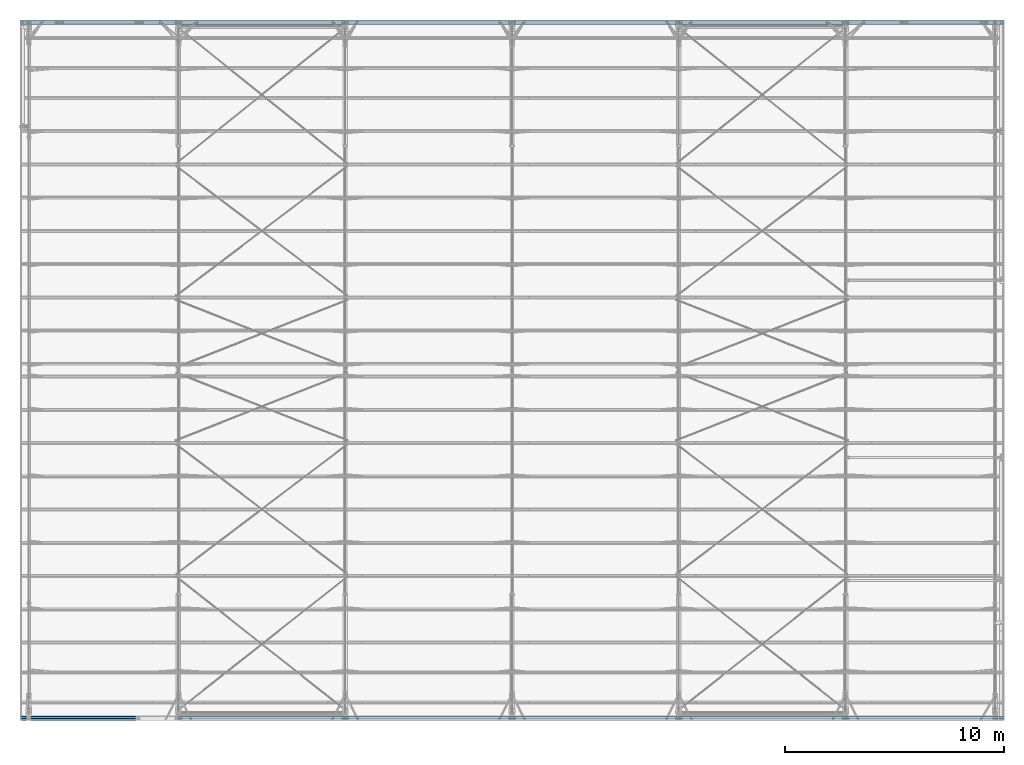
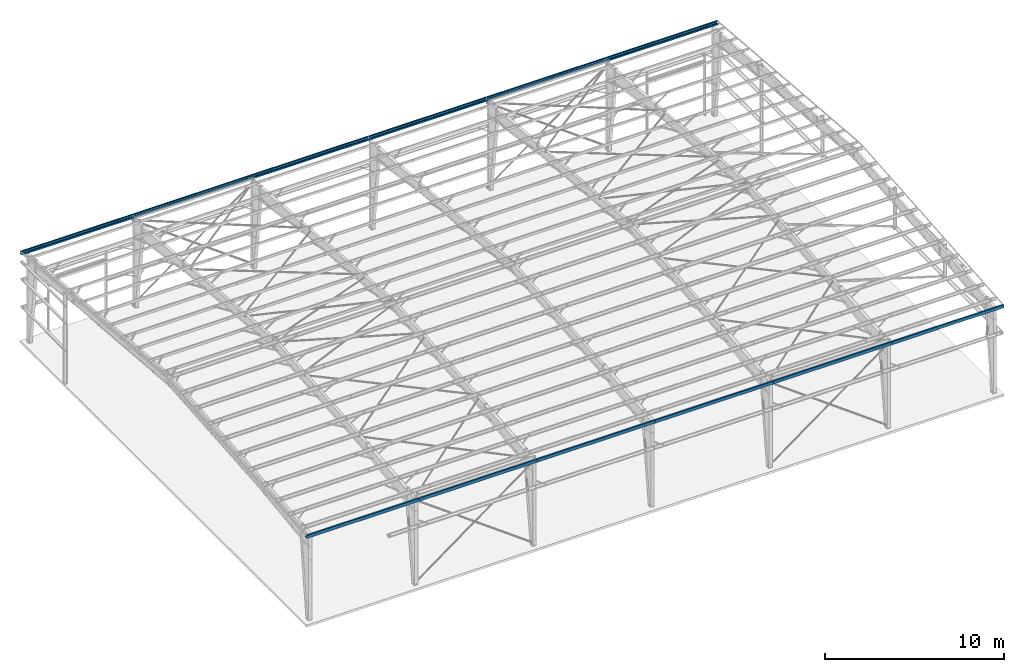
# One storey, part 181 of 185: 12 beams, 12 elements without a shape of their own.
"""IFC2X3 building model written with IfcOpenShell, lengths in millimetres."""

from ifc_helpers import new_model, si_unit, frame, origin_with_axes, place, context, subcontext, project, spatial, faceted_brep, material, type_object, element, aggregate, save


model = new_model("IFC2X3")

# Units and contexts
model_context = context("Model", 3, precision=1e-05, world=origin_with_axes())
body_context = subcontext(model_context, "Body", "Model", "MODEL_VIEW")
ifc_project = project(units=[si_unit("LENGTHUNIT", "METRE", prefix="MILLI"), si_unit("AREAUNIT", "SQUARE_METRE"), si_unit("VOLUMEUNIT", "CUBIC_METRE"), si_unit("MASSUNIT", "GRAM", prefix="KILO"), si_unit("TIMEUNIT", "SECOND"), si_unit("PLANEANGLEUNIT", "RADIAN"), si_unit("SOLIDANGLEUNIT", "STERADIAN"), si_unit("THERMODYNAMICTEMPERATUREUNIT", "DEGREE_CELSIUS"), si_unit("LUMINOUSINTENSITYUNIT", "LUMEN")], contexts=[model_context])

# Site, building, storey
site_placement = place(None, origin_with_axes())
site = spatial("IfcSite", under=ifc_project, at=site_placement, Name="Undefined", CompositionType="ELEMENT")
building_placement = place(site_placement, origin_with_axes())
building = spatial("IfcBuilding", under=site, at=building_placement, Name="Undefined", CompositionType="ELEMENT")
storey_placement = place(building_placement, origin_with_axes())
storey = spatial("IfcBuildingStorey", under=building, at=storey_placement, Name="Undefined", CompositionType="ELEMENT", Elevation=0.0)

# Assembly, beam
assembly_1_placement = place(storey_placement, origin_with_axes())
assembly_1 = element("IfcElementAssembly", 1, at=assembly_1_placement, inside=storey, Name="Steel Assembly", AssemblyPlace="NOTDEFINED", PredefinedType="RIGID_FRAME")
ifc_material = material(Name="STEEL/55")
beam_type = type_object("IfcBeamType", Name="ESEIGHT1\"", PredefinedType="NOTDEFINED")
beam_1_placement = place(assembly_1_placement, frame((7238.99999999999, 31901.9256137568, 5998.11499141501), z_axis=(0.0, 0.0, 1.0), x_axis=(-1.0, 0.0, 0.0)))
beam_1 = element("IfcBeam", 2, at=beam_1_placement, type_object=beam_type, material=ifc_material, Name="Eave Strut", ObjectType="ESEIGHT1\"", context=body_context, shape_type="Brep", body=[
    faceted_brep([(12.6999999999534, 75.0482668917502, -3.64394826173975), (12.6999999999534, 75.1801017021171, -5.22596464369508), (7226.29999999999, 75.1801017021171, -5.22596464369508), (7226.29999999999, 75.0482668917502, -3.64394826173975), (12.6999999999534, 93.3732901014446, -3.70986432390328), (7226.29999999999, 93.3732901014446, -3.70986432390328), (12.6999999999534, 100.360535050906, -87.5567325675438), (7226.29999999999, 100.360535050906, -87.5567325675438), (12.6999999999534, -100.48688624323, -104.294031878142), (7226.29999999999, -100.48688624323, -104.294031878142), (12.6999999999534, -100.48688624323, 97.3129654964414), (7226.29999999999, -100.48688624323, 97.3129654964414), (12.6999999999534, -16.576842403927, 104.305475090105), (7226.29999999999, -16.576842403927, 104.305475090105), (12.6999999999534, -15.0607420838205, 86.1122867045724), (7226.29999999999, -15.0607420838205, 86.1122867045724), (12.6999999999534, -13.4787257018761, 86.2441215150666), (7226.29999999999, -13.4787257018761, 86.2441215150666), (12.6999999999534, -15.1266608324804, 106.019326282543), (7226.29999999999, -15.1266608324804, 106.019326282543), (12.6999999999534, -102.074386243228, 98.7736763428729), (7226.29999999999, -102.074386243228, 98.7736763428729), (12.6999999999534, -102.074386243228, -106.019326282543), (7226.29999999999, -102.074386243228, -106.019326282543), (12.6999999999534, 102.074386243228, -89.0069141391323), (7226.29999999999, 102.074386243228, -89.0069141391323), (12.6999999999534, 94.8234716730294, -1.99601313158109), (7226.29999999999, 94.8234716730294, -1.99601313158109)], [[[0, 1, 2, 3]], [[1, 4, 5, 2]], [[4, 6, 7, 5]], [[6, 8, 9, 7]], [[8, 10, 11, 9]], [[10, 12, 13, 11]], [[12, 14, 15, 13]], [[14, 16, 17, 15]], [[16, 18, 19, 17]], [[18, 20, 21, 19]], [[20, 22, 23, 21]], [[22, 24, 25, 23]], [[24, 26, 27, 25]], [[26, 0, 3, 27]], [[5, 7, 9, 11, 13, 15, 17, 19, 21, 23, 25, 27, 3, 2]], [[26, 24, 22, 20, 18, 16, 14, 12, 10, 8, 6, 4, 1, 0]]]),
])
aggregate(assembly_1, [beam_1])

assembly_2_placement = place(storey_placement, origin_with_axes())
assembly_2 = element("IfcElementAssembly", 3, at=assembly_2_placement, inside=storey, Name="Steel Assembly", AssemblyPlace="NOTDEFINED", PredefinedType="RIGID_FRAME")
beam_2_placement = place(assembly_2_placement, frame((14859.0, 31901.9256137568, 5998.11499141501), z_axis=(0.0, 0.0, 1.0), x_axis=(-1.0, 0.0, 0.0)))
beam_2 = element("IfcBeam", 4, at=beam_2_placement, type_object=beam_type, material=ifc_material, Name="Eave Strut", ObjectType="ESEIGHT1\"", context=body_context, shape_type="Brep", body=[
    faceted_brep([(12.6999999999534, 75.0482668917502, -3.64394826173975), (12.6999999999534, 75.1801017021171, -5.22596464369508), (7607.29999999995, 75.1801017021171, -5.22596464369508), (7607.29999999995, 75.0482668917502, -3.64394826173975), (12.6999999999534, 93.3732901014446, -3.70986432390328), (7607.29999999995, 93.3732901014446, -3.70986432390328), (12.6999999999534, 100.360535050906, -87.5567325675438), (7607.29999999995, 100.360535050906, -87.5567325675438), (12.6999999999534, -100.48688624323, -104.294031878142), (7607.29999999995, -100.48688624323, -104.294031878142), (12.6999999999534, -100.48688624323, 97.3129654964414), (7607.29999999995, -100.48688624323, 97.3129654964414), (12.6999999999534, -16.576842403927, 104.305475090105), (7607.29999999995, -16.576842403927, 104.305475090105), (12.6999999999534, -15.0607420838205, 86.1122867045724), (7607.29999999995, -15.0607420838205, 86.1122867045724), (12.6999999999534, -13.4787257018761, 86.2441215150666), (7607.29999999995, -13.4787257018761, 86.2441215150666), (12.6999999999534, -15.1266608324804, 106.019326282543), (7607.29999999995, -15.1266608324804, 106.019326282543), (12.6999999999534, -102.074386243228, 98.7736763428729), (7607.29999999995, -102.074386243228, 98.7736763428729), (12.6999999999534, -102.074386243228, -106.019326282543), (7607.29999999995, -102.074386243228, -106.019326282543), (12.6999999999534, 102.074386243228, -89.0069141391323), (7607.29999999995, 102.074386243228, -89.0069141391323), (12.6999999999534, 94.8234716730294, -1.99601313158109), (7607.29999999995, 94.8234716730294, -1.99601313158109)], [[[0, 1, 2, 3]], [[1, 4, 5, 2]], [[4, 6, 7, 5]], [[6, 8, 9, 7]], [[8, 10, 11, 9]], [[10, 12, 13, 11]], [[12, 14, 15, 13]], [[14, 16, 17, 15]], [[16, 18, 19, 17]], [[18, 20, 21, 19]], [[20, 22, 23, 21]], [[22, 24, 25, 23]], [[24, 26, 27, 25]], [[26, 0, 3, 27]], [[5, 7, 9, 11, 13, 15, 17, 19, 21, 23, 25, 27, 3, 2]], [[26, 24, 22, 20, 18, 16, 14, 12, 10, 8, 6, 4, 1, 0]]]),
])
aggregate(assembly_2, [beam_2])

assembly_3_placement = place(storey_placement, origin_with_axes())
assembly_3 = element("IfcElementAssembly", 5, at=assembly_3_placement, inside=storey, Name="Steel Assembly", AssemblyPlace="NOTDEFINED", PredefinedType="RIGID_FRAME")
beam_3_placement = place(assembly_3_placement, frame((37719.0, 31901.9256137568, 5998.11499141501), z_axis=(0.0, 0.0, 1.0), x_axis=(-1.0, 0.0, 0.0)))
beam_3 = element("IfcBeam", 6, at=beam_3_placement, type_object=beam_type, material=ifc_material, Name="Eave Strut", ObjectType="ESEIGHT1\"", context=body_context, shape_type="Brep", body=[
    faceted_brep([(12.6999999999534, 75.0482668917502, -3.64394826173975), (12.6999999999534, 75.1801017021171, -5.22596464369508), (7607.29999999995, 75.1801017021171, -5.22596464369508), (7607.29999999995, 75.0482668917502, -3.64394826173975), (12.6999999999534, 93.3732901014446, -3.70986432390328), (7607.29999999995, 93.3732901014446, -3.70986432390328), (12.6999999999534, 100.360535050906, -87.5567325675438), (7607.29999999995, 100.360535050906, -87.5567325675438), (12.6999999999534, -100.48688624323, -104.294031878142), (7607.29999999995, -100.48688624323, -104.294031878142), (12.6999999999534, -100.48688624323, 97.3129654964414), (7607.29999999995, -100.48688624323, 97.3129654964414), (12.6999999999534, -16.576842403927, 104.305475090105), (7607.29999999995, -16.576842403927, 104.305475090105), (12.6999999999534, -15.0607420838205, 86.1122867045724), (7607.29999999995, -15.0607420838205, 86.1122867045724), (12.6999999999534, -13.4787257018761, 86.2441215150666), (7607.29999999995, -13.4787257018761, 86.2441215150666), (12.6999999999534, -15.1266608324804, 106.019326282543), (7607.29999999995, -15.1266608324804, 106.019326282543), (12.6999999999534, -102.074386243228, 98.7736763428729), (7607.29999999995, -102.074386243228, 98.7736763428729), (12.6999999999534, -102.074386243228, -106.019326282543), (7607.29999999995, -102.074386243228, -106.019326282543), (12.6999999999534, 102.074386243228, -89.0069141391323), (7607.29999999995, 102.074386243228, -89.0069141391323), (12.6999999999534, 94.8234716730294, -1.99601313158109), (7607.29999999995, 94.8234716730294, -1.99601313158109)], [[[0, 1, 2, 3]], [[1, 4, 5, 2]], [[4, 6, 7, 5]], [[6, 8, 9, 7]], [[8, 10, 11, 9]], [[10, 12, 13, 11]], [[12, 14, 15, 13]], [[14, 16, 17, 15]], [[16, 18, 19, 17]], [[18, 20, 21, 19]], [[20, 22, 23, 21]], [[22, 24, 25, 23]], [[24, 26, 27, 25]], [[26, 0, 3, 27]], [[5, 7, 9, 11, 13, 15, 17, 19, 21, 23, 25, 27, 3, 2]], [[26, 24, 22, 20, 18, 16, 14, 12, 10, 8, 6, 4, 1, 0]]]),
])
aggregate(assembly_3, [beam_3])

assembly_4_placement = place(storey_placement, origin_with_axes())
assembly_4 = element("IfcElementAssembly", 7, at=assembly_4_placement, inside=storey, Name="Steel Assembly", AssemblyPlace="NOTDEFINED", PredefinedType="RIGID_FRAME")
beam_4_placement = place(assembly_4_placement, frame((30099.0, 31901.9256137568, 5998.11499141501), z_axis=(0.0, 0.0, 1.0), x_axis=(-1.0, 0.0, 0.0)))
beam_4 = element("IfcBeam", 8, at=beam_4_placement, type_object=beam_type, material=ifc_material, Name="Eave Strut", ObjectType="ESEIGHT1\"", context=body_context, shape_type="Brep", body=[
    faceted_brep([(12.6999999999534, 75.0482668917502, -3.64394826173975), (12.6999999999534, 75.1801017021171, -5.22596464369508), (7607.29999999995, 75.1801017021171, -5.22596464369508), (7607.29999999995, 75.0482668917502, -3.64394826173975), (12.6999999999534, 93.3732901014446, -3.70986432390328), (7607.29999999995, 93.3732901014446, -3.70986432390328), (12.6999999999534, 100.360535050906, -87.5567325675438), (7607.29999999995, 100.360535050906, -87.5567325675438), (12.6999999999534, -100.48688624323, -104.294031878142), (7607.29999999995, -100.48688624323, -104.294031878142), (12.6999999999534, -100.48688624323, 97.3129654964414), (7607.29999999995, -100.48688624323, 97.3129654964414), (12.6999999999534, -16.576842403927, 104.305475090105), (7607.29999999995, -16.576842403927, 104.305475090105), (12.6999999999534, -15.0607420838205, 86.1122867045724), (7607.29999999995, -15.0607420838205, 86.1122867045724), (12.6999999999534, -13.4787257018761, 86.2441215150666), (7607.29999999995, -13.4787257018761, 86.2441215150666), (12.6999999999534, -15.1266608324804, 106.019326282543), (7607.29999999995, -15.1266608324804, 106.019326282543), (12.6999999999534, -102.074386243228, 98.7736763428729), (7607.29999999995, -102.074386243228, 98.7736763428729), (12.6999999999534, -102.074386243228, -106.019326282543), (7607.29999999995, -102.074386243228, -106.019326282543), (12.6999999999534, 102.074386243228, -89.0069141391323), (7607.29999999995, 102.074386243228, -89.0069141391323), (12.6999999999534, 94.8234716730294, -1.99601313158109), (7607.29999999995, 94.8234716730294, -1.99601313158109)], [[[0, 1, 2, 3]], [[1, 4, 5, 2]], [[4, 6, 7, 5]], [[6, 8, 9, 7]], [[8, 10, 11, 9]], [[10, 12, 13, 11]], [[12, 14, 15, 13]], [[14, 16, 17, 15]], [[16, 18, 19, 17]], [[18, 20, 21, 19]], [[20, 22, 23, 21]], [[22, 24, 25, 23]], [[24, 26, 27, 25]], [[26, 0, 3, 27]], [[5, 7, 9, 11, 13, 15, 17, 19, 21, 23, 25, 27, 3, 2]], [[26, 24, 22, 20, 18, 16, 14, 12, 10, 8, 6, 4, 1, 0]]]),
])
aggregate(assembly_4, [beam_4])

assembly_5_placement = place(storey_placement, origin_with_axes())
assembly_5 = element("IfcElementAssembly", 9, at=assembly_5_placement, inside=storey, Name="Steel Assembly", AssemblyPlace="NOTDEFINED", PredefinedType="RIGID_FRAME")
beam_5_placement = place(assembly_5_placement, frame((22479.0, 31901.9256137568, 5998.11499141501), z_axis=(0.0, 0.0, 1.0), x_axis=(-1.0, 0.0, 0.0)))
beam_5 = element("IfcBeam", 10, at=beam_5_placement, type_object=beam_type, material=ifc_material, Name="Eave Strut", ObjectType="ESEIGHT1\"", context=body_context, shape_type="Brep", body=[
    faceted_brep([(12.6999999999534, 75.0482668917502, -3.64394826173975), (12.6999999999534, 75.1801017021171, -5.22596464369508), (7607.29999999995, 75.1801017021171, -5.22596464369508), (7607.29999999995, 75.0482668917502, -3.64394826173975), (12.6999999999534, 93.3732901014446, -3.70986432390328), (7607.29999999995, 93.3732901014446, -3.70986432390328), (12.6999999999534, 100.360535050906, -87.5567325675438), (7607.29999999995, 100.360535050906, -87.5567325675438), (12.6999999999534, -100.48688624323, -104.294031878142), (7607.29999999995, -100.48688624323, -104.294031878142), (12.6999999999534, -100.48688624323, 97.3129654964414), (7607.29999999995, -100.48688624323, 97.3129654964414), (12.6999999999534, -16.576842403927, 104.305475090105), (7607.29999999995, -16.576842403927, 104.305475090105), (12.6999999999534, -15.0607420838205, 86.1122867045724), (7607.29999999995, -15.0607420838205, 86.1122867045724), (12.6999999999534, -13.4787257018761, 86.2441215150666), (7607.29999999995, -13.4787257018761, 86.2441215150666), (12.6999999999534, -15.1266608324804, 106.019326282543), (7607.29999999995, -15.1266608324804, 106.019326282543), (12.6999999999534, -102.074386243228, 98.7736763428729), (7607.29999999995, -102.074386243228, 98.7736763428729), (12.6999999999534, -102.074386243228, -106.019326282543), (7607.29999999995, -102.074386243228, -106.019326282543), (12.6999999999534, 102.074386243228, -89.0069141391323), (7607.29999999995, 102.074386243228, -89.0069141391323), (12.6999999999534, 94.8234716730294, -1.99601313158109), (7607.29999999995, 94.8234716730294, -1.99601313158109)], [[[0, 1, 2, 3]], [[1, 4, 5, 2]], [[4, 6, 7, 5]], [[6, 8, 9, 7]], [[8, 10, 11, 9]], [[10, 12, 13, 11]], [[12, 14, 15, 13]], [[14, 16, 17, 15]], [[16, 18, 19, 17]], [[18, 20, 21, 19]], [[20, 22, 23, 21]], [[22, 24, 25, 23]], [[24, 26, 27, 25]], [[26, 0, 3, 27]], [[5, 7, 9, 11, 13, 15, 17, 19, 21, 23, 25, 27, 3, 2]], [[26, 24, 22, 20, 18, 16, 14, 12, 10, 8, 6, 4, 1, 0]]]),
])
aggregate(assembly_5, [beam_5])

assembly_6_placement = place(storey_placement, origin_with_axes())
assembly_6 = element("IfcElementAssembly", 11, at=assembly_6_placement, inside=storey, Name="Steel Assembly", AssemblyPlace="NOTDEFINED", PredefinedType="RIGID_FRAME")
beam_6_placement = place(assembly_6_placement, frame((44958.0, 31901.9256137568, 5998.11499141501), z_axis=(0.0, 0.0, 1.0), x_axis=(-1.0, 0.0, 0.0)))
beam_6 = element("IfcBeam", 12, at=beam_6_placement, type_object=beam_type, material=ifc_material, Name="Eave Strut", ObjectType="ESEIGHT1\"", context=body_context, shape_type="Brep", body=[
    faceted_brep([(12.6999999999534, 75.0482668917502, -3.64394826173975), (12.6999999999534, 75.1801017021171, -5.22596464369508), (7226.29999999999, 75.1801017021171, -5.22596464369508), (7226.29999999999, 75.0482668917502, -3.64394826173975), (12.6999999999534, 93.3732901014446, -3.70986432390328), (7226.29999999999, 93.3732901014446, -3.70986432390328), (12.6999999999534, 100.360535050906, -87.5567325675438), (7226.29999999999, 100.360535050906, -87.5567325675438), (12.6999999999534, -100.48688624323, -104.294031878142), (7226.29999999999, -100.48688624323, -104.294031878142), (12.6999999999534, -100.48688624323, 97.3129654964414), (7226.29999999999, -100.48688624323, 97.3129654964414), (12.6999999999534, -16.576842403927, 104.305475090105), (7226.29999999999, -16.576842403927, 104.305475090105), (12.6999999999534, -15.0607420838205, 86.1122867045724), (7226.29999999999, -15.0607420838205, 86.1122867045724), (12.6999999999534, -13.4787257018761, 86.2441215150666), (7226.29999999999, -13.4787257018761, 86.2441215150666), (12.6999999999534, -15.1266608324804, 106.019326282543), (7226.29999999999, -15.1266608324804, 106.019326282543), (12.6999999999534, -102.074386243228, 98.7736763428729), (7226.29999999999, -102.074386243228, 98.7736763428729), (12.6999999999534, -102.074386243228, -106.019326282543), (7226.29999999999, -102.074386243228, -106.019326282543), (12.6999999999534, 102.074386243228, -89.0069141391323), (7226.29999999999, 102.074386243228, -89.0069141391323), (12.6999999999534, 94.8234716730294, -1.99601313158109), (7226.29999999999, 94.8234716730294, -1.99601313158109)], [[[0, 1, 2, 3]], [[1, 4, 5, 2]], [[4, 6, 7, 5]], [[6, 8, 9, 7]], [[8, 10, 11, 9]], [[10, 12, 13, 11]], [[12, 14, 15, 13]], [[14, 16, 17, 15]], [[16, 18, 19, 17]], [[18, 20, 21, 19]], [[20, 22, 23, 21]], [[22, 24, 25, 23]], [[24, 26, 27, 25]], [[26, 0, 3, 27]], [[5, 7, 9, 11, 13, 15, 17, 19, 21, 23, 25, 27, 3, 2]], [[26, 24, 22, 20, 18, 16, 14, 12, 10, 8, 6, 4, 1, 0]]]),
])
aggregate(assembly_6, [beam_6])

assembly_7_placement = place(storey_placement, origin_with_axes())
assembly_7 = element("IfcElementAssembly", 13, at=assembly_7_placement, inside=storey, Name="Steel Assembly", AssemblyPlace="NOTDEFINED", PredefinedType="RIGID_FRAME")
beam_7_placement = place(assembly_7_placement, frame((37719.0, 102.074386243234, 5998.114991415), z_axis=(0.0, 0.0, 1.0), x_axis=(1.0, 0.0, 0.0)))
beam_7 = element("IfcBeam", 14, at=beam_7_placement, type_object=beam_type, material=ifc_material, Name="Eave Strut", ObjectType="ESEIGHT1\"", context=body_context, shape_type="Brep", body=[
    faceted_brep([(12.6999999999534, 75.0482668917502, -3.64394826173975), (12.6999999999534, 75.1801017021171, -5.22596464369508), (7226.29999999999, 75.1801017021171, -5.22596464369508), (7226.29999999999, 75.0482668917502, -3.64394826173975), (12.6999999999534, 93.3732901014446, -3.70986432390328), (7226.29999999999, 93.3732901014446, -3.70986432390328), (12.6999999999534, 100.360535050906, -87.5567325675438), (7226.29999999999, 100.360535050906, -87.5567325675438), (12.6999999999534, -100.48688624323, -104.294031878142), (7226.29999999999, -100.48688624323, -104.294031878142), (12.6999999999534, -100.48688624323, 97.3129654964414), (7226.29999999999, -100.48688624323, 97.3129654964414), (12.6999999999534, -16.576842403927, 104.305475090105), (7226.29999999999, -16.576842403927, 104.305475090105), (12.6999999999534, -15.0607420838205, 86.1122867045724), (7226.29999999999, -15.0607420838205, 86.1122867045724), (12.6999999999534, -13.4787257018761, 86.2441215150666), (7226.29999999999, -13.4787257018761, 86.2441215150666), (12.6999999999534, -15.1266608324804, 106.019326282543), (7226.29999999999, -15.1266608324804, 106.019326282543), (12.6999999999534, -102.074386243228, 98.7736763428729), (7226.29999999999, -102.074386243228, 98.7736763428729), (12.6999999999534, -102.074386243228, -106.019326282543), (7226.29999999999, -102.074386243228, -106.019326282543), (12.6999999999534, 102.074386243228, -89.0069141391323), (7226.29999999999, 102.074386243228, -89.0069141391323), (12.6999999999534, 94.8234716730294, -1.99601313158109), (7226.29999999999, 94.8234716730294, -1.99601313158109)], [[[0, 1, 2, 3]], [[1, 4, 5, 2]], [[4, 6, 7, 5]], [[6, 8, 9, 7]], [[8, 10, 11, 9]], [[10, 12, 13, 11]], [[12, 14, 15, 13]], [[14, 16, 17, 15]], [[16, 18, 19, 17]], [[18, 20, 21, 19]], [[20, 22, 23, 21]], [[22, 24, 25, 23]], [[24, 26, 27, 25]], [[26, 0, 3, 27]], [[5, 7, 9, 11, 13, 15, 17, 19, 21, 23, 25, 27, 3, 2]], [[26, 24, 22, 20, 18, 16, 14, 12, 10, 8, 6, 4, 1, 0]]]),
])
aggregate(assembly_7, [beam_7])

assembly_8_placement = place(storey_placement, origin_with_axes())
assembly_8 = element("IfcElementAssembly", 15, at=assembly_8_placement, inside=storey, Name="Steel Assembly", AssemblyPlace="NOTDEFINED", PredefinedType="RIGID_FRAME")
beam_8_placement = place(assembly_8_placement, frame((30099.0, 102.074386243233, 5998.114991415), z_axis=(0.0, 0.0, 1.0), x_axis=(1.0, 0.0, 0.0)))
beam_8 = element("IfcBeam", 16, at=beam_8_placement, type_object=beam_type, material=ifc_material, Name="Eave Strut", ObjectType="ESEIGHT1\"", context=body_context, shape_type="Brep", body=[
    faceted_brep([(12.6999999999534, 75.0482668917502, -3.64394826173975), (12.6999999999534, 75.1801017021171, -5.22596464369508), (7607.29999999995, 75.1801017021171, -5.22596464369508), (7607.29999999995, 75.0482668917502, -3.64394826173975), (12.6999999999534, 93.3732901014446, -3.70986432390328), (7607.29999999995, 93.3732901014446, -3.70986432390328), (12.6999999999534, 100.360535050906, -87.5567325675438), (7607.29999999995, 100.360535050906, -87.5567325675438), (12.6999999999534, -100.48688624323, -104.294031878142), (7607.29999999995, -100.48688624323, -104.294031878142), (12.6999999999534, -100.48688624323, 97.3129654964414), (7607.29999999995, -100.48688624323, 97.3129654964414), (12.6999999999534, -16.576842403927, 104.305475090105), (7607.29999999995, -16.576842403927, 104.305475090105), (12.6999999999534, -15.0607420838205, 86.1122867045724), (7607.29999999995, -15.0607420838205, 86.1122867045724), (12.6999999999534, -13.4787257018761, 86.2441215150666), (7607.29999999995, -13.4787257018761, 86.2441215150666), (12.6999999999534, -15.1266608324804, 106.019326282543), (7607.29999999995, -15.1266608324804, 106.019326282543), (12.6999999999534, -102.074386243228, 98.7736763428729), (7607.29999999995, -102.074386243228, 98.7736763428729), (12.6999999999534, -102.074386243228, -106.019326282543), (7607.29999999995, -102.074386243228, -106.019326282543), (12.6999999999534, 102.074386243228, -89.0069141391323), (7607.29999999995, 102.074386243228, -89.0069141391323), (12.6999999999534, 94.8234716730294, -1.99601313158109), (7607.29999999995, 94.8234716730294, -1.99601313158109)], [[[0, 1, 2, 3]], [[1, 4, 5, 2]], [[4, 6, 7, 5]], [[6, 8, 9, 7]], [[8, 10, 11, 9]], [[10, 12, 13, 11]], [[12, 14, 15, 13]], [[14, 16, 17, 15]], [[16, 18, 19, 17]], [[18, 20, 21, 19]], [[20, 22, 23, 21]], [[22, 24, 25, 23]], [[24, 26, 27, 25]], [[26, 0, 3, 27]], [[5, 7, 9, 11, 13, 15, 17, 19, 21, 23, 25, 27, 3, 2]], [[26, 24, 22, 20, 18, 16, 14, 12, 10, 8, 6, 4, 1, 0]]]),
])
aggregate(assembly_8, [beam_8])

assembly_9_placement = place(storey_placement, origin_with_axes())
assembly_9 = element("IfcElementAssembly", 17, at=assembly_9_placement, inside=storey, Name="Steel Assembly", AssemblyPlace="NOTDEFINED", PredefinedType="RIGID_FRAME")
beam_9_placement = place(assembly_9_placement, frame((7239.0, 102.07438624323, 5998.114991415), z_axis=(0.0, 0.0, 1.0), x_axis=(1.0, 0.0, 0.0)))
beam_9 = element("IfcBeam", 18, at=beam_9_placement, type_object=beam_type, material=ifc_material, Name="Eave Strut", ObjectType="ESEIGHT1\"", context=body_context, shape_type="Brep", body=[
    faceted_brep([(12.6999999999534, 75.0482668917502, -3.64394826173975), (12.6999999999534, 75.1801017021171, -5.22596464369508), (7607.29999999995, 75.1801017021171, -5.22596464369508), (7607.29999999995, 75.0482668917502, -3.64394826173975), (12.6999999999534, 93.3732901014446, -3.70986432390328), (7607.29999999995, 93.3732901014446, -3.70986432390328), (12.6999999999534, 100.360535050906, -87.5567325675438), (7607.29999999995, 100.360535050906, -87.5567325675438), (12.6999999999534, -100.48688624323, -104.294031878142), (7607.29999999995, -100.48688624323, -104.294031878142), (12.6999999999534, -100.48688624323, 97.3129654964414), (7607.29999999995, -100.48688624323, 97.3129654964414), (12.6999999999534, -16.576842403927, 104.305475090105), (7607.29999999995, -16.576842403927, 104.305475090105), (12.6999999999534, -15.0607420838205, 86.1122867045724), (7607.29999999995, -15.0607420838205, 86.1122867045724), (12.6999999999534, -13.4787257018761, 86.2441215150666), (7607.29999999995, -13.4787257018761, 86.2441215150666), (12.6999999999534, -15.1266608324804, 106.019326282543), (7607.29999999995, -15.1266608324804, 106.019326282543), (12.6999999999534, -102.074386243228, 98.7736763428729), (7607.29999999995, -102.074386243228, 98.7736763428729), (12.6999999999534, -102.074386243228, -106.019326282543), (7607.29999999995, -102.074386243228, -106.019326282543), (12.6999999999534, 102.074386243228, -89.0069141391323), (7607.29999999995, 102.074386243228, -89.0069141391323), (12.6999999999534, 94.8234716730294, -1.99601313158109), (7607.29999999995, 94.8234716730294, -1.99601313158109)], [[[0, 1, 2, 3]], [[1, 4, 5, 2]], [[4, 6, 7, 5]], [[6, 8, 9, 7]], [[8, 10, 11, 9]], [[10, 12, 13, 11]], [[12, 14, 15, 13]], [[14, 16, 17, 15]], [[16, 18, 19, 17]], [[18, 20, 21, 19]], [[20, 22, 23, 21]], [[22, 24, 25, 23]], [[24, 26, 27, 25]], [[26, 0, 3, 27]], [[5, 7, 9, 11, 13, 15, 17, 19, 21, 23, 25, 27, 3, 2]], [[26, 24, 22, 20, 18, 16, 14, 12, 10, 8, 6, 4, 1, 0]]]),
])
aggregate(assembly_9, [beam_9])

assembly_10_placement = place(storey_placement, origin_with_axes())
assembly_10 = element("IfcElementAssembly", 19, at=assembly_10_placement, inside=storey, Name="Steel Assembly", AssemblyPlace="NOTDEFINED", PredefinedType="RIGID_FRAME")
beam_10_placement = place(assembly_10_placement, frame((14859.0, 102.074386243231, 5998.114991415), z_axis=(0.0, 0.0, 1.0), x_axis=(1.0, 0.0, 0.0)))
beam_10 = element("IfcBeam", 20, at=beam_10_placement, type_object=beam_type, material=ifc_material, Name="Eave Strut", ObjectType="ESEIGHT1\"", context=body_context, shape_type="Brep", body=[
    faceted_brep([(12.6999999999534, 75.0482668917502, -3.64394826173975), (12.6999999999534, 75.1801017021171, -5.22596464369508), (7607.29999999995, 75.1801017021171, -5.22596464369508), (7607.29999999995, 75.0482668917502, -3.64394826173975), (12.6999999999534, 93.3732901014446, -3.70986432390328), (7607.29999999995, 93.3732901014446, -3.70986432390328), (12.6999999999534, 100.360535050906, -87.5567325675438), (7607.29999999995, 100.360535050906, -87.5567325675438), (12.6999999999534, -100.48688624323, -104.294031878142), (7607.29999999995, -100.48688624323, -104.294031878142), (12.6999999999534, -100.48688624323, 97.3129654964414), (7607.29999999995, -100.48688624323, 97.3129654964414), (12.6999999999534, -16.576842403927, 104.305475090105), (7607.29999999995, -16.576842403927, 104.305475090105), (12.6999999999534, -15.0607420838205, 86.1122867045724), (7607.29999999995, -15.0607420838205, 86.1122867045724), (12.6999999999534, -13.4787257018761, 86.2441215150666), (7607.29999999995, -13.4787257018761, 86.2441215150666), (12.6999999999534, -15.1266608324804, 106.019326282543), (7607.29999999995, -15.1266608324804, 106.019326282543), (12.6999999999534, -102.074386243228, 98.7736763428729), (7607.29999999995, -102.074386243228, 98.7736763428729), (12.6999999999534, -102.074386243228, -106.019326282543), (7607.29999999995, -102.074386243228, -106.019326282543), (12.6999999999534, 102.074386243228, -89.0069141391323), (7607.29999999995, 102.074386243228, -89.0069141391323), (12.6999999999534, 94.8234716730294, -1.99601313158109), (7607.29999999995, 94.8234716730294, -1.99601313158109)], [[[0, 1, 2, 3]], [[1, 4, 5, 2]], [[4, 6, 7, 5]], [[6, 8, 9, 7]], [[8, 10, 11, 9]], [[10, 12, 13, 11]], [[12, 14, 15, 13]], [[14, 16, 17, 15]], [[16, 18, 19, 17]], [[18, 20, 21, 19]], [[20, 22, 23, 21]], [[22, 24, 25, 23]], [[24, 26, 27, 25]], [[26, 0, 3, 27]], [[5, 7, 9, 11, 13, 15, 17, 19, 21, 23, 25, 27, 3, 2]], [[26, 24, 22, 20, 18, 16, 14, 12, 10, 8, 6, 4, 1, 0]]]),
])
aggregate(assembly_10, [beam_10])

assembly_11_placement = place(storey_placement, origin_with_axes())
assembly_11 = element("IfcElementAssembly", 21, at=assembly_11_placement, inside=storey, Name="Steel Assembly", AssemblyPlace="NOTDEFINED", PredefinedType="RIGID_FRAME")
beam_11_placement = place(assembly_11_placement, frame((22479.0, 102.074386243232, 5998.114991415), z_axis=(0.0, 0.0, 1.0), x_axis=(1.0, 0.0, 0.0)))
beam_11 = element("IfcBeam", 22, at=beam_11_placement, type_object=beam_type, material=ifc_material, Name="Eave Strut", ObjectType="ESEIGHT1\"", context=body_context, shape_type="Brep", body=[
    faceted_brep([(12.6999999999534, 75.0482668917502, -3.64394826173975), (12.6999999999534, 75.1801017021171, -5.22596464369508), (7607.29999999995, 75.1801017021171, -5.22596464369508), (7607.29999999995, 75.0482668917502, -3.64394826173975), (12.6999999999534, 93.3732901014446, -3.70986432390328), (7607.29999999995, 93.3732901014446, -3.70986432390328), (12.6999999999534, 100.360535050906, -87.5567325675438), (7607.29999999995, 100.360535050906, -87.5567325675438), (12.6999999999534, -100.48688624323, -104.294031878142), (7607.29999999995, -100.48688624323, -104.294031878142), (12.6999999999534, -100.48688624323, 97.3129654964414), (7607.29999999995, -100.48688624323, 97.3129654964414), (12.6999999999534, -16.576842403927, 104.305475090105), (7607.29999999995, -16.576842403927, 104.305475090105), (12.6999999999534, -15.0607420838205, 86.1122867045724), (7607.29999999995, -15.0607420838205, 86.1122867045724), (12.6999999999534, -13.4787257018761, 86.2441215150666), (7607.29999999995, -13.4787257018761, 86.2441215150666), (12.6999999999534, -15.1266608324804, 106.019326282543), (7607.29999999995, -15.1266608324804, 106.019326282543), (12.6999999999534, -102.074386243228, 98.7736763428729), (7607.29999999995, -102.074386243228, 98.7736763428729), (12.6999999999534, -102.074386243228, -106.019326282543), (7607.29999999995, -102.074386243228, -106.019326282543), (12.6999999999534, 102.074386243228, -89.0069141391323), (7607.29999999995, 102.074386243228, -89.0069141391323), (12.6999999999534, 94.8234716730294, -1.99601313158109), (7607.29999999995, 94.8234716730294, -1.99601313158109)], [[[0, 1, 2, 3]], [[1, 4, 5, 2]], [[4, 6, 7, 5]], [[6, 8, 9, 7]], [[8, 10, 11, 9]], [[10, 12, 13, 11]], [[12, 14, 15, 13]], [[14, 16, 17, 15]], [[16, 18, 19, 17]], [[18, 20, 21, 19]], [[20, 22, 23, 21]], [[22, 24, 25, 23]], [[24, 26, 27, 25]], [[26, 0, 3, 27]], [[5, 7, 9, 11, 13, 15, 17, 19, 21, 23, 25, 27, 3, 2]], [[26, 24, 22, 20, 18, 16, 14, 12, 10, 8, 6, 4, 1, 0]]]),
])
aggregate(assembly_11, [beam_11])

assembly_12_placement = place(storey_placement, origin_with_axes())
assembly_12 = element("IfcElementAssembly", 23, at=assembly_12_placement, inside=storey, Name="Steel Assembly", AssemblyPlace="NOTDEFINED", PredefinedType="RIGID_FRAME")
beam_12_placement = place(assembly_12_placement, frame((-2.38730911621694e-13, 102.07438624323, 5998.114991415), z_axis=(0.0, 0.0, 1.0), x_axis=(1.0, 0.0, 0.0)))
beam_12 = element("IfcBeam", 24, at=beam_12_placement, type_object=beam_type, material=ifc_material, Name="Eave Strut", ObjectType="ESEIGHT1\"", context=body_context, shape_type="Brep", body=[
    faceted_brep([(12.6999999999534, 75.0482668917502, -3.64394826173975), (12.6999999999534, 75.1801017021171, -5.22596464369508), (7226.29999999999, 75.1801017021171, -5.22596464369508), (7226.29999999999, 75.0482668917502, -3.64394826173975), (12.6999999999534, 93.3732901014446, -3.70986432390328), (7226.29999999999, 93.3732901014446, -3.70986432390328), (12.6999999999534, 100.360535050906, -87.5567325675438), (7226.29999999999, 100.360535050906, -87.5567325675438), (12.6999999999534, -100.48688624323, -104.294031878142), (7226.29999999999, -100.48688624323, -104.294031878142), (12.6999999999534, -100.48688624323, 97.3129654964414), (7226.29999999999, -100.48688624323, 97.3129654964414), (12.6999999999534, -16.576842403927, 104.305475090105), (7226.29999999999, -16.576842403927, 104.305475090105), (12.6999999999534, -15.0607420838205, 86.1122867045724), (7226.29999999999, -15.0607420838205, 86.1122867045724), (12.6999999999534, -13.4787257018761, 86.2441215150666), (7226.29999999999, -13.4787257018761, 86.2441215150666), (12.6999999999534, -15.1266608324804, 106.019326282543), (7226.29999999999, -15.1266608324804, 106.019326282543), (12.6999999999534, -102.074386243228, 98.7736763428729), (7226.29999999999, -102.074386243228, 98.7736763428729), (12.6999999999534, -102.074386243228, -106.019326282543), (7226.29999999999, -102.074386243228, -106.019326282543), (12.6999999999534, 102.074386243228, -89.0069141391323), (7226.29999999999, 102.074386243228, -89.0069141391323), (12.6999999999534, 94.8234716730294, -1.99601313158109), (7226.29999999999, 94.8234716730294, -1.99601313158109)], [[[0, 1, 2, 3]], [[1, 4, 5, 2]], [[4, 6, 7, 5]], [[6, 8, 9, 7]], [[8, 10, 11, 9]], [[10, 12, 13, 11]], [[12, 14, 15, 13]], [[14, 16, 17, 15]], [[16, 18, 19, 17]], [[18, 20, 21, 19]], [[20, 22, 23, 21]], [[22, 24, 25, 23]], [[24, 26, 27, 25]], [[26, 0, 3, 27]], [[5, 7, 9, 11, 13, 15, 17, 19, 21, 23, 25, 27, 3, 2]], [[26, 24, 22, 20, 18, 16, 14, 12, 10, 8, 6, 4, 1, 0]]]),
])
aggregate(assembly_12, [beam_12])

save(model, "model.ifc")
